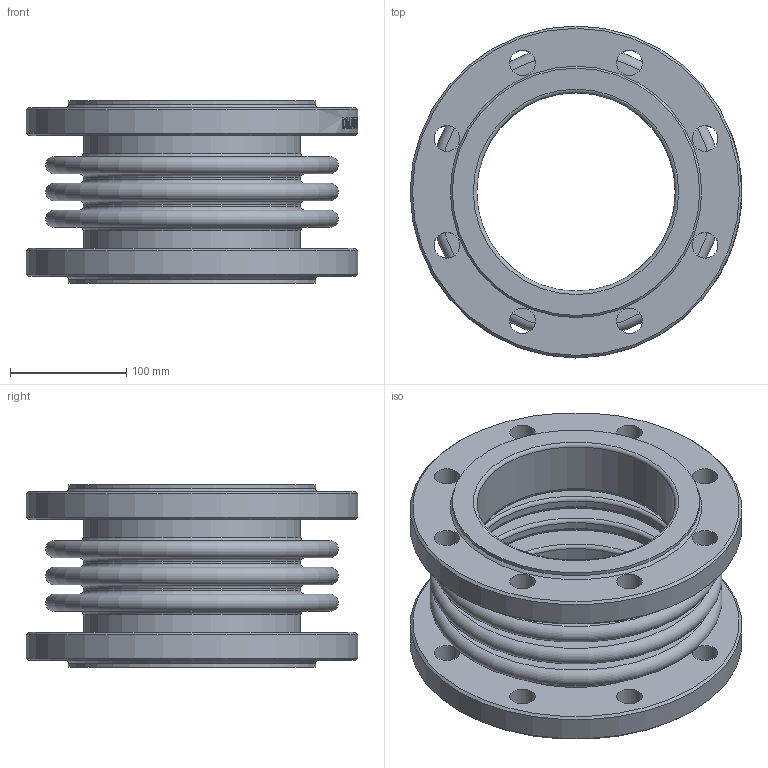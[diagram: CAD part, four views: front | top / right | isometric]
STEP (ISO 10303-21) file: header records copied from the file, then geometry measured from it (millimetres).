
FILE_DESCRIPTION(/* description */ ('D140-02143','CAx-IF Rec.Pracs.---Representation and Presentation of Product Manufacturing Information (PMI)---4.0---2014-10-13'),/* implementation_level */ '2;1');
FILE_NAME(/* name */ '',/* time_stamp */ '2026-04-16T22:07:54+03:00',/* author */ ('DN.RU'),/* organization */ ('DN.RU'),/* preprocessor_version */ 'ST-DEVELOPER v20',/* originating_system */ 'Autodesk Inventor 2025',/* authorisation */ '');
FILE_SCHEMA (('AP242_MANAGED_MODEL_BASED_3D_ENGINEERING_MIM_LF { 1 0 10303 442 1 1 4 }'));
Length unit declared in the file: millimetre
Products named in the file (1): CB-3232P-F
Bounding box: 285 x 285 x 157 mm (x, y, z)
Volume: 2392907.7 mm3; surface area: 647814.4 mm2
Topology: 1 solids, 1 shells, 283 faces, 723 edges, 482 vertices
Faces by surface type: plane 122, bspline 85, cylinder 50, torus 20, cone 6
Full cylindrical faces by diameter (mm): 22 x16, 170.5 x2, 182.5 x2, 186.5 x4, 194.5 x2, 212.5 x2, 285 x2
Entity records: 11806 total; most frequent: CARTESIAN_POINT 4526, ORIENTED_EDGE 1446, DIRECTION 1267, EDGE_CURVE 723, VERTEX_POINT 482, AXIS2_PLACEMENT_3D 480, STYLED_ITEM 361, EDGE_LOOP 357
